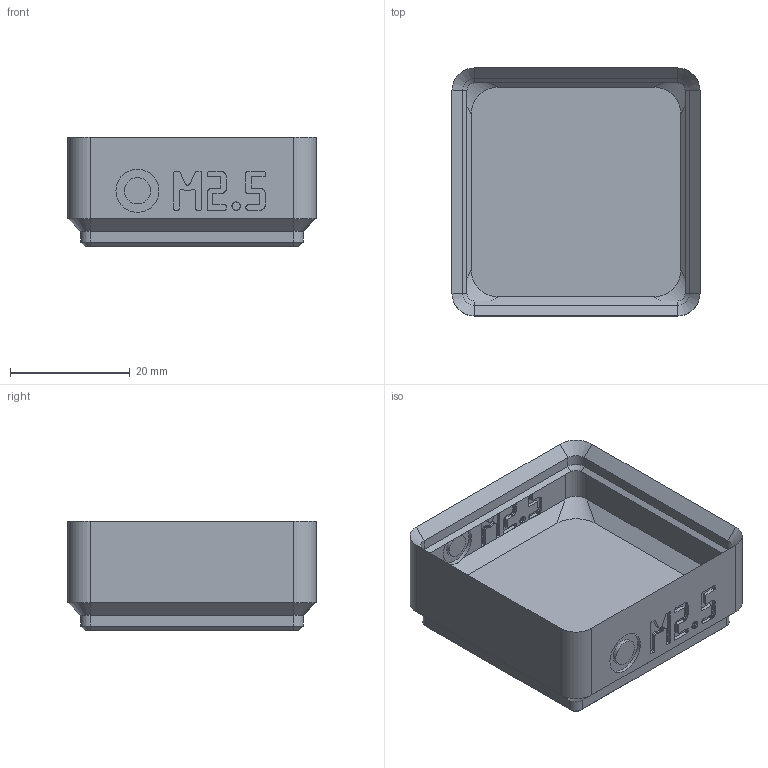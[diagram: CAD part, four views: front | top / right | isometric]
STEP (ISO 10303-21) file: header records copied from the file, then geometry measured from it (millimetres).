
FILE_DESCRIPTION(('Open CASCADE Model'),'2;1');
FILE_NAME('bin_wshr_m2_5','2026-11-16T17:21:51',('Author'),( 'Open CASCADE'),'Open CASCADE STEP processor 8.0','build123d', 'Unknown');
FILE_SCHEMA(('AUTOMOTIVE_DESIGN { 1 0 10303 214 1 1 1 1 }'));
Products named in the file (1): bin_wshr_m2_5
Bounding box: 41.5 x 41.5 x 18.4 mm (x, y, z)
Volume: 10954.8 mm3; surface area: 8364 mm2
Topology: 1 solids, 1 shells, 868 faces, 2482 edges, 1636 vertices
Faces by surface type: plane 816, cylinder 28, cone 16, bspline 8
Full cylindrical faces by diameter (mm): 3.2 x4, 3.846 x1, 4.4 x1, 6.5 x4, 6.646 x1, 7.2 x1
Entity records: 58407 total; most frequent: CARTESIAN_POINT 11816, DIRECTION 7535, LINE 5635, VECTOR 5635, ORIENTED_EDGE 4964, PCURVE 4964, DEFINITIONAL_REPRESENTATION 4964, EDGE_CURVE 2482
